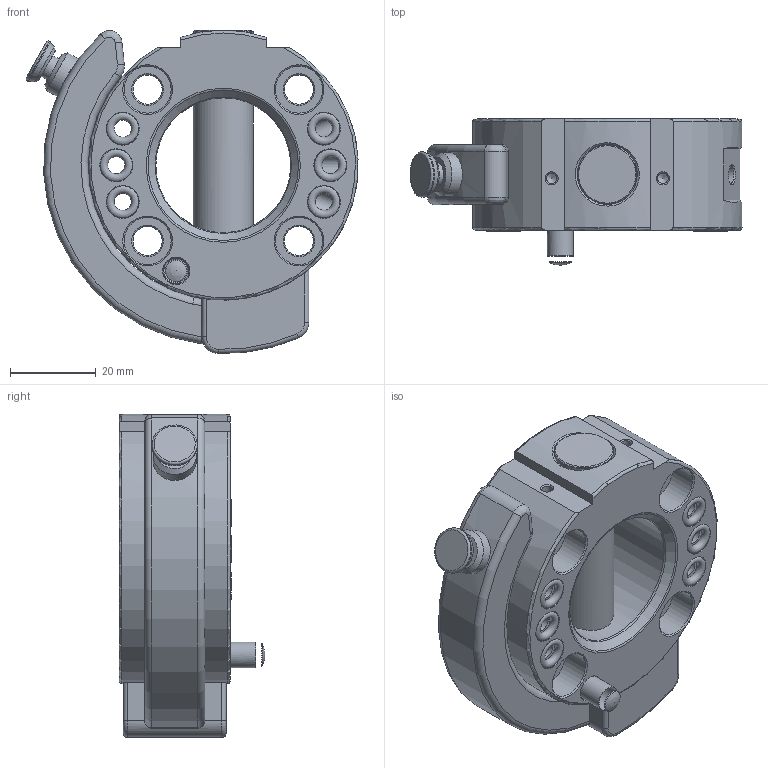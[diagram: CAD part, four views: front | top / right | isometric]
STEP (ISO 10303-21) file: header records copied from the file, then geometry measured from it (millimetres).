
FILE_DESCRIPTION(/* description */ (''),/* implementation_level */ '2;1');
FILE_NAME(/* name */ 'T:\Engineering\Homepage\Homepage 2020\4 3D Step-Daten - Homepage\4 SHW\G-SHW063-2OEP.stp',/* time_stamp */ '2023-06-30T10:07:06+02:00',/* author */ ('ysplieth'),/* organization */ (''),/* preprocessor_version */ 'ST-DEVELOPER v17',/* originating_system */ 'Autodesk Inventor 2018',/* authorisation */ '');
FILE_SCHEMA (('AUTOMOTIVE_DESIGN { 1 0 10303 214 3 1 1 }'));
Length unit declared in the file: millimetre
Products named in the file (1): Bauteil11
Bounding box: 77.55 x 34.1 x 75.49 mm (x, y, z)
Volume: 76022.4 mm3; surface area: 24762 mm2
Topology: 1 solids, 9 shells, 230 faces, 604 edges, 398 vertices
Faces by surface type: cylinder 74, plane 56, torus 48, cone 45, bspline 5, sphere 2
Full cylindrical faces by diameter (mm): 2.459 x2, 3.242 x2, 4 x6, 4.134 x3, 5.58 x1, 5.8 x1, 6 x2, 6.2 x1, 6.8 x5, 7 x1, 7.5 x6, 7.8 x12, 10.1 x1, 10.6 x1, 11 x4, 14 x3, 16.5 x1, 31.5 x1
Entity records: 8426 total; most frequent: CARTESIAN_POINT 2118, DIRECTION 1386, ORIENTED_EDGE 1190, AXIS2_PLACEMENT_3D 613, EDGE_CURVE 595, VERTEX_POINT 399, CIRCLE 381, EDGE_LOOP 294
